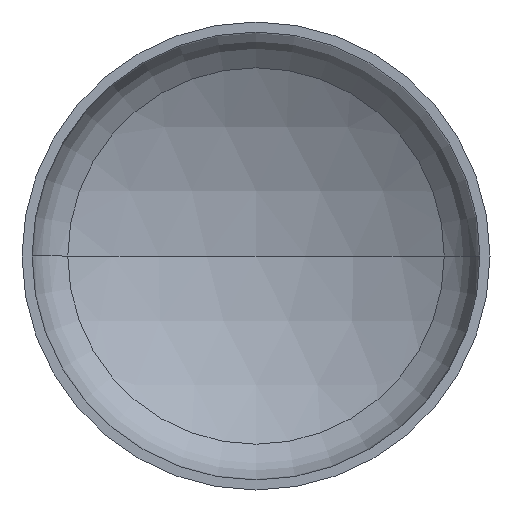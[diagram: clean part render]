
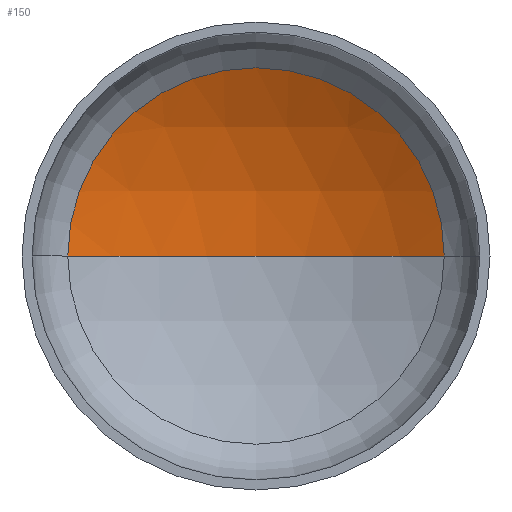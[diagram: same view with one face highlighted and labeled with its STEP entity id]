
A CAD part, front view. The second image highlights one B-rep face of the part: STEP entity #150.
In plain terms, the highlighted spherical face has radius 2240 mm.
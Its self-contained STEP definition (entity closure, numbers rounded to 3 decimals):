
#15 = EDGE_LOOP ( 'NONE', ( #93, #84, #35 ) ) ;
#19 = VERTEX_POINT ( 'NONE', #289 ) ;
#25 = SPHERICAL_SURFACE ( 'NONE', #31, 2240. ) ;
#31 = AXIS2_PLACEMENT_3D ( 'NONE', #349, #154, #206 ) ;
#35 = ORIENTED_EDGE ( 'NONE', *, *, #99, .T. ) ;
#37 = AXIS2_PLACEMENT_3D ( 'NONE', #293, #250, #205 ) ;
#39 = AXIS2_PLACEMENT_3D ( 'NONE', #275, #123, #297 ) ;
#41 = AXIS2_PLACEMENT_3D ( 'NONE', #204, #201, #202 ) ;
#84 = ORIENTED_EDGE ( 'NONE', *, *, #105, .T. ) ;
#93 = ORIENTED_EDGE ( 'NONE', *, *, #125, .F. ) ;
#99 = EDGE_CURVE ( 'NONE', #19, #261, #252, .T. ) ;
#104 = CARTESIAN_POINT ( 'NONE',  ( -1126.188, 491.703, 0. ) ) ;
#105 = EDGE_CURVE ( 'NONE', #114, #19, #364, .T. ) ;
#114 = VERTEX_POINT ( 'NONE', #194 ) ;
#123 = DIRECTION ( 'NONE',  ( 0., 0., -1. ) ) ;
#125 = EDGE_CURVE ( 'NONE', #114, #261, #172, .T. ) ;
#150 = ADVANCED_FACE ( 'NONE', ( #300 ), #25, .F. ) ;
#154 = DIRECTION ( 'NONE',  ( 0., 0., -1. ) ) ;
#172 = CIRCLE ( 'NONE', #37, 2240. ) ;
#194 = CARTESIAN_POINT ( 'NONE',  ( 0., 795.391, 0. ) ) ;
#201 = DIRECTION ( 'NONE',  ( 0., -1., 0. ) ) ;
#202 = DIRECTION ( 'NONE',  ( 1., 0., 0. ) ) ;
#204 = CARTESIAN_POINT ( 'NONE',  ( 0., 491.703, 0. ) ) ;
#205 = DIRECTION ( 'NONE',  ( 1., 0., 0. ) ) ;
#206 = DIRECTION ( 'NONE',  ( -1., 0., 0. ) ) ;
#250 = DIRECTION ( 'NONE',  ( 0., 0., 1. ) ) ;
#252 = CIRCLE ( 'NONE', #41, 1126.188 ) ;
#261 = VERTEX_POINT ( 'NONE', #104 ) ;
#275 = CARTESIAN_POINT ( 'NONE',  ( 0., -1444.609, 0. ) ) ;
#289 = CARTESIAN_POINT ( 'NONE',  ( 1126.188, 491.703, 0. ) ) ;
#293 = CARTESIAN_POINT ( 'NONE',  ( 0., -1444.609, 0. ) ) ;
#297 = DIRECTION ( 'NONE',  ( -1., 0., 0. ) ) ;
#300 = FACE_OUTER_BOUND ( 'NONE', #15, .T. ) ;
#349 = CARTESIAN_POINT ( 'NONE',  ( 0., -1444.609, 0. ) ) ;
#364 = CIRCLE ( 'NONE', #39, 2240. ) ;
